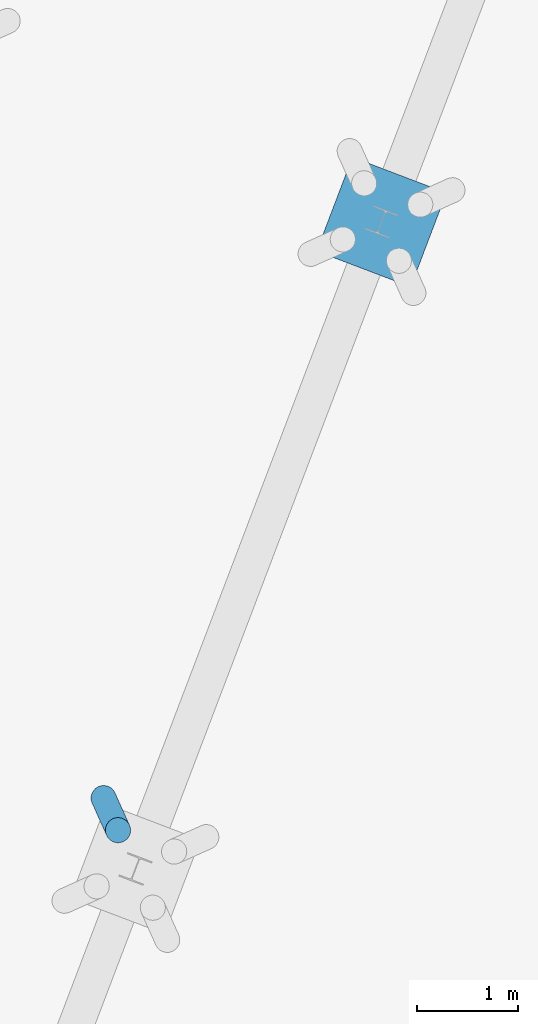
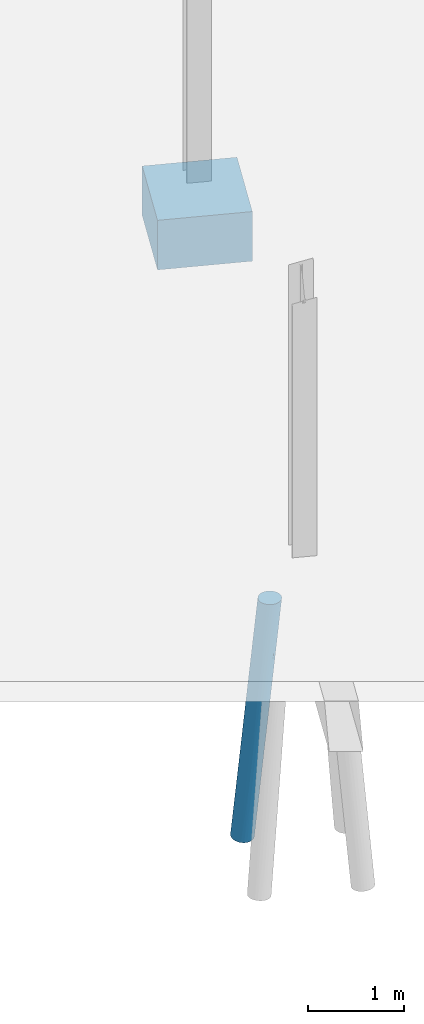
# One storey, part 24 of 46: 1 footing, 1 pile.
"""IFC2X3 building model written with IfcOpenShell, lengths in millimetres."""

from ifc_helpers import new_model, entity, si_unit, converted_unit, derived_unit, direction, frame, origin, origin_2d_with_axis, place, context, subcontext, project, spatial, rectangle, extrude, faceted_brep, source, transform, mapped, material, type_object, type_shapes, element, save


model = new_model("IFC2X3")

# Units and contexts
model_context = context("Model", 3, precision=0.01, world=origin(), true_north=direction((6.123233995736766e-17, 1.0)))
body_context = subcontext(model_context, "Body", "Model", "MODEL_VIEW")
ifc_project = project(units=[si_unit("LENGTHUNIT", "METRE", prefix="MILLI"), converted_unit("PLANEANGLEUNIT", "DEGREE", entity("IfcPlaneAngleMeasure", 0.017453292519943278), si_unit("PLANEANGLEUNIT", "RADIAN"), dimensions=[0, 0, 0, 0, 0, 0, 0]), si_unit("AREAUNIT", "SQUARE_METRE"), derived_unit("THERMALTRANSMITTANCEUNIT", [(si_unit("MASSUNIT", "GRAM", prefix="KILO"), 1), (si_unit("THERMODYNAMICTEMPERATUREUNIT", "KELVIN"), -1), (si_unit("TIMEUNIT", "SECOND"), -3)])], contexts=[model_context])

# Site, building, storey
site_placement = place(None, frame((-72937.88054949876, 11621.45624098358, 0.0), z_axis=(0.0, 0.0, 1.0), x_axis=(0.9346418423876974, -0.35559053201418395, 0.0)))
site = spatial("IfcSite", under=ifc_project, at=site_placement, Name="Default", CompositionType="ELEMENT")
building_placement = place(site_placement, origin())
building = spatial("IfcBuilding", under=site, at=building_placement, CompositionType="ELEMENT")
storey_placement = place(building_placement, origin())
storey = spatial("IfcBuildingStorey", under=building, at=storey_placement, Name="00 begane grond", CompositionType="ELEMENT", Elevation=0.0)

# Footing
ifc_material_1 = material(Name="beton_gewapend_ihw")
type_product_1 = type_object("IfcTypeProduct", Name="poer 1000x1000x800mm", material=ifc_material_1)
shared_shape_1 = source(origin(), body_context, "Body", "SweptSolid", [
    extrude(rectangle(XDim=999.999999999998, YDim=999.999999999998, at=origin_2d_with_axis()), frame((62300.0, 28760.0, -800.0), z_axis=(0.0, 0.0, 1.0), x_axis=(-1.0, 0.0, 0.0)), (0.0, 0.0, 1.0), 630.0000000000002),
])
type_shapes(type_product_1, [shared_shape_1])
footing_placement = place(storey_placement, frame((0.0, 0.0, -60.0)))
element("IfcFooting", 1, at=footing_placement, inside=storey, type_object=type_product_1, material=ifc_material_1, Name="16.13_Poer rechthoek", ObjectType="betonpoer rechthoekig", PredefinedType="PILE_CAP", context=body_context, shape_type="MappedRepresentation", body=[
    mapped(shared_shape_1, transform((0.0, 0.0, 0.0), scale=1.0)),
])

# Pile
ifc_material_2 = material(Name="beton_gewapend_prefab-element_c45/55")
type_product_2 = type_object("IfcTypeProduct", Name="Type 01", material=ifc_material_2)
shared_shape_2 = source(origin(), body_context, "Body", "Brep", [
    faceted_brep([(-21.492869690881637, -34.07967924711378, -2142.478153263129), (41.770052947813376, 0.0, -1615.9926657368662), (50.02983679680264, -41.219149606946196, -1478.3429510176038), (-120.39371842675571, -27.815116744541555, -840.0), (-209.76851175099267, 0.0, -1615.9934634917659), (-196.5141812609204, -41.35907440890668, -1560.4595682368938), (-88.87736384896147, -91.39060439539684, -2432.143714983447), (-29.01608810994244, -89.9027707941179, -1907.5825387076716), (-105.46135978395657, -105.60554685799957, -2414.744852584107), (115.53639022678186, -54.235467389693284, -840.0), (100.55257203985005, -77.93622523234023, -840.0), (44.04069234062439, -66.4881713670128, -1422.150587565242), (-241.29781855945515, -62.499999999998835, -4011.9545633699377), (-228.8866429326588, -32.35238063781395, -4013.333582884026), (-181.63351961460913, -47.83542906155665, -3540.4622999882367), (127.99146025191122, 0.0, -840.0), (124.838162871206, -27.815116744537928, -840.0), (56.79144948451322, -112.62110848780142, -840.0), (-1.0422673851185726, -115.29700921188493, -1306.634534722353), (80.6380595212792, -97.7289353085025, -840.0), (-148.00042706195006, -121.55050259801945, -1927.9224619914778), (-119.59016639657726, -124.7753227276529, -1868.475336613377), (-82.66188090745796, -124.23733970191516, -1479.1096584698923), (2.222222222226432, -125.0, -840.0), (-25.764066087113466, -121.86598902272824, -840.0), (35.238837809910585, -88.30507823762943, -1343.9943162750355), (-38.428481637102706, -123.46402257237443, -1382.7576650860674), (30.208510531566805, -121.86598902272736, -840.0), (-105.46067851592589, -124.17311504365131, -1939.1271630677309), (-121.64165871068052, -118.88184081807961, -2304.5646505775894), (-59.29822656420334, -117.91120533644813, -1769.4495348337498), (-224.65342205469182, 0.0, -4013.803940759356), (-181.5427184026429, 0.0, -3625.8076078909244), (-187.86059930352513, -76.09517863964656, -3448.7603995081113), (-111.16783038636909, -79.40373738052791, -2734.720867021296), (-186.42266103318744, -99.1691675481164, -3226.87509877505), (-381.04339378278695, -120.74072828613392, -3996.4272772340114), (-348.8888888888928, -125.0, -4000.0), (-294.25946310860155, -123.9306076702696, -3360.589550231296), (-119.53291308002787, -47.835429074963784, -2981.55684112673), (-105.13946974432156, -22.11026756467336, -2920.330251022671), (-71.50265177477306, -37.61355729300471, -2582.985799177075), (-160.26870491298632, -23.53094104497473, -3414.1045295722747), (-286.7711554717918, -108.25317547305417, -4006.901970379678), (-238.88036705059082, -115.48494156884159, -3443.09153660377), (-261.04114782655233, -88.38834764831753, -4009.7608601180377), (-316.7343839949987, -120.74072828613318, -4003.5727227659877), (-84.00174733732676, -60.02171841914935, -2608.908596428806), (-61.65923548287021, -74.64816535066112, -2322.8523974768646), (-173.2739820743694, -115.31995815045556, -2856.223431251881), (-151.97718420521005, -123.99260475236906, -2371.2114813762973), (-123.54701580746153, 0.0, -840.0), (-250.82857575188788, -22.617884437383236, -2004.2180489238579), (-295.9900076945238, 0.0, -2391.986926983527), (-52.347005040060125, -112.6211084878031, -840.0), (-76.19361507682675, -97.72893530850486, -840.0), (-107.44397040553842, -105.89787173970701, -1225.6035634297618), (-281.4812245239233, -123.93060767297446, -3541.076638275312), (-109.06614769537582, -117.5733672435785, -1457.2474766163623), (-111.0919457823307, -54.235467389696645, -840.0), (-15.85514051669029, -105.72630914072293, -1606.5585830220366), (-146.68659472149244, -88.47759853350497, -1380.5978408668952), (-158.7756678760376, -105.96661342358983, -1688.5825591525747), (-348.5966640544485, -22.310072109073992, -2883.621631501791), (-384.5571817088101, 0.0, -3189.0914931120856), (-404.9818286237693, -23.95962394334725, -3393.9013620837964), (-416.2874807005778, -47.83542904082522, -3560.826702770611), (-468.89113484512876, -32.35238063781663, -3986.6664171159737), (-456.47995921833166, -62.500000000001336, -3988.0454366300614), (-337.6622645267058, -115.48494156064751, -3465.7921474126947), (-411.00662230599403, -108.25317547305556, -3993.0980296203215), (-255.6918544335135, -84.13968982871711, -2324.129304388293), (-241.96823570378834, -100.09571921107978, -2359.7174741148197), (-204.57839676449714, -89.69967503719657, -1912.8684599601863), (-96.10812759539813, -77.93622523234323, -840.0), (-436.73662995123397, -88.38834764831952, -3990.239139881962), (-377.92930595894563, -99.16916753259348, -3572.292603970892), (-206.96183482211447, -60.377923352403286, -1731.5361763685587), (-358.429549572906, -47.83542903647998, -3040.1053226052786), (-296.17437932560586, -43.53585544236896, -2464.518236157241), (-379.61635653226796, -76.09517861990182, -3378.5322028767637), (-430.0136077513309, 0.0, -3598.199327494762), (-306.35511538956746, -77.61365432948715, -2729.9013330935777), (-213.4617402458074, -118.14633713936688, -2411.4959163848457), (-159.2186646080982, -65.41382269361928, -1328.4086999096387), (-67.97340634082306, -109.92592992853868, -2010.6352011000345), (-179.43548008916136, -124.76102802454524, -2404.9604566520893), (-13.219750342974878, -66.34050229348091, -1938.3332116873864), (-236.17409644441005, -124.51562049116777, -2886.015168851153), (-268.30597333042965, -110.23172722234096, -2741.026078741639), (-270.10864031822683, -119.49229851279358, -2958.6820679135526), (-320.7170568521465, -99.16916752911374, -3057.382361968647), (-473.12435572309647, 0.0, -3986.1960592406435), (-138.91569201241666, -99.37675608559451, -2796.855638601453), (-220.46267944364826, -123.93060767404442, -2991.9097324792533), (-44.45135435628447, 0.0, -2391.9853314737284), (-247.15908292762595, -66.69543969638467, -2127.0964328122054), (-134.55238820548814, 0.0, -3202.894636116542), (-89.50217198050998, 0.0, -2797.4426900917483), (-303.09738986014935, -21.900839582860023, -2473.4623287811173), (-340.273594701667, 0.0, -2790.539210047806), (-246.59414544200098, -45.75852255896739, -2025.9931784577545), (124.83816287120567, 27.815116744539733, -840.0), (115.53639022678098, 54.23546738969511, -840.0), (100.55257203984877, 77.93622523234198, -840.0), (80.63805952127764, 97.72893530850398, -840.0), (56.7914494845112, 112.62110848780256, -840.0), (30.20851053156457, 121.86598902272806, -840.0), (2.222222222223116, 125.0, -840.0), (-25.764066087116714, 121.86598902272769, -840.0), (-52.3470050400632, 112.62110848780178, -840.0), (-76.19361507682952, 97.72893530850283, -840.0), (-96.1081275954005, 77.93622523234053, -840.0), (-111.09194578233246, 54.23546738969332, -840.0), (-120.39371842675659, 27.815116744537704, -840.0), (-213.46174017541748, 118.14633716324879, -2411.4959163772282), (-268.3059732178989, 110.23172722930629, -2741.0260778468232), (-241.96823566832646, 100.09571920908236, -2359.717473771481), (-187.14229973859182, 67.59575846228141, -1592.137482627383), (-196.5141812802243, 41.359074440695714, -1560.4595685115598), (-82.66188086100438, 124.23733970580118, -1479.1096583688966), (-29.016087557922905, 89.90277069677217, -1907.5825346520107), (35.23883807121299, 88.30507821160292, -1343.9943141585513), (-13.219750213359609, 66.3405022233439, -1938.3332109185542), (-109.06614766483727, 117.57336725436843, -1457.2474766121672), (-381.04339378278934, 120.74072828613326, -3996.4272772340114), (-337.6622645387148, 115.48494156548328, -3465.7921476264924), (-294.2594631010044, 123.93060767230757, -3360.5895503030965), (-377.9293059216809, 99.16916753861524, -3572.292603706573), (-379.61635651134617, 76.09517863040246, -3378.53220276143), (-320.717056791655, 99.16916754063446, -3057.382361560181), (-286.77115547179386, 108.25317547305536, -4006.901970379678), (-238.88036707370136, 115.48494156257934, -3443.0915369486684), (-186.42266103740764, 99.16916753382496, -3226.875098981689), (-241.29781855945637, 62.50000000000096, -4011.9545633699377), (-181.63351956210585, 47.835429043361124, -3540.4622995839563), (-228.88664293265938, 32.352380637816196, -4013.333582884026), (-107.44397039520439, 105.89787175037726, -1225.6035634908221), (-38.428481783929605, 123.46402262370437, -1382.7576634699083), (-468.89113484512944, 32.35238063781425, -3986.6664171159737), (-173.2739821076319, 115.31995832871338, -2856.223427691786), (-138.91569233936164, 99.37675620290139, -2796.855640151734), (-160.26870486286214, 23.530941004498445, -3414.104529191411), (-261.041147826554, 88.38834764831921, -4009.7608601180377), (-187.86059935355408, 76.09517862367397, -3448.760400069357), (-306.35511542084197, 77.61365434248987, -2729.9013334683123), (-348.8888888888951, 125.0, -4000.0), (-456.47995921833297, 62.49999999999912, -3988.0454366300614), (-416.2874806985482, 47.83542904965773, -3560.826702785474), (-411.0066223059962, 108.25317547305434, -3993.0980296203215), (-436.7366299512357, 88.38834764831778, -3990.239139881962), (-84.00174724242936, 60.02171839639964, -2608.9085956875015), (-21.492869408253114, 34.07967918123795, -2142.4781508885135), (-71.50265159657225, 37.613557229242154, -2582.9857977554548), (-220.46267940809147, 123.93060767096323, -2991.909732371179), (-281.48122449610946, 123.9306076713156, -3541.07663813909), (-148.0004270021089, 121.5505026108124, -1927.922461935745), (-158.7756678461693, 105.9666134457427, -1688.5825592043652), (-15.85514048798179, 105.72630911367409, -1606.5585831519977), (-59.298225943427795, 117.91120535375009, -1769.449528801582), (-1.0422669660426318, 115.29700910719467, -1306.634533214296), (-270.1086403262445, 119.49229851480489, -2958.682068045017), (50.02983688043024, 41.21914955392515, -1478.342950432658), (-146.6865947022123, 88.47759855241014, -1380.5978408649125), (-358.42954957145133, 47.83542905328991, -3040.1053226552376), (-348.59666404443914, 22.310072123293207, -2883.6216314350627), (-296.1743793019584, 43.535855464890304, -2464.5182360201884), (57.21126448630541, 65.80573689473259, -1307.4694469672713), (-121.64165783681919, 118.88184074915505, -2304.564644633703), (-67.97340649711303, 109.92593000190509, -2010.6352012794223), (-105.13946990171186, 22.110267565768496, -2920.330252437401), (-179.4354799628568, 124.7610280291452, -2404.960456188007), (-316.73438399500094, 120.7407282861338, -4003.5727227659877), (-119.53291301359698, 47.8354290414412, -2981.5568406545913), (-250.82857577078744, 22.617884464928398, -2004.2180491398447), (-404.98182862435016, 23.959623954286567, -3393.9013621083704), (-61.65923550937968, 74.64816548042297, -2322.852396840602), (-243.17628094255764, 45.971171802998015, -1995.991919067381), (-105.46135971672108, 105.60554680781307, -2414.7448526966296), (-111.16783063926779, 79.40373735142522, -2734.7208695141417), (-119.59016630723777, 124.7753227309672, -1868.4753363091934), (-236.17409637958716, 124.515620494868, -2886.0151686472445), (-204.5783966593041, 89.69967507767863, -1912.8684593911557), (-247.1590829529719, 66.69543974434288, -2127.0964333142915), (-88.87736442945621, 91.39060438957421, -2432.1437202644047), (-255.69185439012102, 84.13968979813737, -2324.1293037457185), (-168.1781585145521, 123.85607816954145, -2526.387901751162), (-105.46067843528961, 124.17311503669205, -1939.1271628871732), (-303.0973898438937, 21.90083960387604, -2473.4623286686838)], [[[0, 1, 2]], [[3, 4, 5]], [[6, 7, 8]], [[9, 10, 11]], [[12, 13, 14]], [[1, 15, 16]], [[17, 18, 19]], [[20, 21, 22]], [[22, 23, 24]], [[10, 19, 25]], [[26, 18, 27]], [[23, 22, 26]], [[28, 29, 30]], [[13, 31, 32]], [[33, 34, 35]], [[36, 37, 38]], [[39, 40, 41]], [[14, 42, 39]], [[43, 35, 44]], [[33, 35, 45]], [[43, 44, 46]], [[47, 48, 34]], [[49, 29, 50]], [[3, 51, 4]], [[30, 26, 28]], [[52, 4, 53]], [[54, 55, 56]], [[57, 38, 37]], [[58, 24, 54]], [[57, 37, 46]], [[3, 5, 59]], [[2, 16, 9]], [[4, 52, 5]], [[25, 60, 7]], [[45, 35, 43]], [[61, 62, 56]], [[63, 64, 65]], [[66, 67, 68]], [[69, 36, 38]], [[36, 69, 70]], [[71, 72, 73]], [[61, 55, 74]], [[75, 70, 76]], [[61, 77, 73]], [[63, 78, 79]], [[75, 76, 80]], [[64, 81, 65]], [[78, 80, 82]], [[75, 80, 68]], [[72, 83, 62]], [[5, 84, 59]], [[29, 8, 85]], [[11, 10, 25]], [[28, 21, 86]], [[45, 12, 33]], [[49, 44, 35]], [[58, 54, 56]], [[22, 58, 20]], [[0, 2, 87]], [[1, 16, 2]], [[88, 86, 83]], [[39, 42, 40]], [[89, 69, 90]], [[74, 59, 84]], [[62, 73, 72]], [[82, 80, 91]], [[66, 80, 78]], [[14, 33, 12]], [[67, 81, 92]], [[34, 33, 39]], [[39, 41, 47]], [[34, 6, 93]], [[35, 93, 49]], [[57, 44, 94]], [[90, 69, 38]], [[76, 69, 91]], [[34, 39, 47]], [[1, 0, 95]], [[72, 82, 91]], [[82, 96, 79]], [[72, 91, 89]], [[62, 61, 73]], [[32, 42, 13]], [[33, 14, 39]], [[44, 57, 46]], [[38, 57, 94]], [[42, 32, 97]], [[42, 97, 40]], [[13, 42, 14]], [[40, 97, 98, 95]], [[41, 95, 0]], [[61, 56, 55]], [[58, 56, 62]], [[20, 62, 83]], [[24, 58, 22]], [[62, 20, 58]], [[20, 83, 86]], [[83, 90, 88]], [[28, 50, 29]], [[90, 38, 88]], [[89, 90, 83]], [[95, 41, 40]], [[47, 0, 87]], [[0, 47, 41]], [[48, 47, 87]], [[7, 48, 87]], [[6, 34, 48]], [[87, 2, 11]], [[7, 60, 85]], [[60, 25, 19]], [[11, 7, 87]], [[7, 6, 48]], [[93, 6, 8]], [[93, 8, 49]], [[34, 93, 35]], [[29, 49, 8]], [[94, 44, 49]], [[30, 85, 60]], [[28, 86, 50]], [[18, 30, 60]], [[18, 26, 30]], [[23, 26, 27]], [[21, 26, 22]], [[19, 18, 60]], [[18, 17, 27]], [[77, 61, 84]], [[71, 96, 82]], [[72, 89, 83]], [[69, 89, 91]], [[38, 94, 88]], [[50, 88, 94]], [[80, 66, 68]], [[65, 67, 66]], [[78, 63, 65]], [[67, 65, 81]], [[78, 65, 66]], [[78, 82, 79]], [[99, 100, 63]], [[79, 101, 52]], [[99, 63, 79]], [[69, 76, 70]], [[80, 76, 91]], [[96, 71, 73]], [[82, 72, 71]], [[29, 85, 30]], [[7, 85, 8]], [[99, 52, 53]], [[101, 79, 96]], [[77, 84, 5]], [[74, 84, 61]], [[86, 21, 20]], [[26, 21, 28]], [[9, 11, 2]], [[7, 11, 25]], [[88, 50, 86]], [[49, 50, 94]], [[52, 99, 79]], [[100, 64, 63]], [[100, 99, 53]], [[77, 101, 96]], [[5, 52, 101]], [[101, 77, 5]], [[73, 77, 96]], [[24, 23, 27, 17, 19, 10, 9, 16, 15, 102, 103, 104, 105, 106, 107, 108, 109, 110, 111, 112, 113, 114, 51, 3, 59, 74, 55, 54]], [[51, 114, 4]], [[115, 116, 117]], [[118, 113, 112]], [[119, 114, 113]], [[120, 109, 108]], [[121, 122, 123]], [[120, 124, 109]], [[125, 126, 127]], [[128, 129, 130]], [[131, 132, 133]], [[134, 135, 136]], [[137, 111, 110]], [[138, 108, 107]], [[139, 92, 81]], [[140, 141, 133]], [[142, 97, 32]], [[143, 133, 144]], [[130, 129, 145]], [[146, 125, 127]], [[147, 139, 148]], [[149, 150, 128]], [[151, 152, 153]], [[154, 155, 127]], [[124, 156, 157]], [[158, 159, 160]], [[4, 114, 119]], [[160, 107, 106]], [[161, 127, 126]], [[103, 102, 162]], [[158, 160, 105]], [[111, 137, 163]], [[164, 165, 166]], [[105, 104, 122]], [[102, 15, 1]], [[167, 103, 162]], [[167, 123, 122]], [[168, 159, 169]], [[170, 97, 142]], [[115, 156, 171]], [[155, 172, 146]], [[163, 118, 112]], [[169, 159, 158]], [[111, 163, 112]], [[143, 131, 133]], [[130, 145, 117]], [[134, 143, 144]], [[123, 162, 152]], [[129, 150, 147]], [[173, 151, 153]], [[119, 174, 4]], [[148, 175, 164]], [[121, 123, 176]], [[166, 174, 177]], [[140, 168, 178]], [[131, 172, 132]], [[144, 179, 173]], [[171, 156, 180]], [[124, 157, 137]], [[102, 1, 162]], [[152, 1, 95]], [[125, 149, 126]], [[136, 32, 31]], [[115, 181, 161]], [[182, 157, 117]], [[118, 183, 177]], [[148, 129, 147]], [[164, 166, 145]], [[155, 132, 172]], [[164, 175, 165]], [[141, 140, 178]], [[179, 144, 133]], [[135, 144, 173]], [[178, 184, 141]], [[151, 176, 123]], [[128, 126, 149]], [[161, 116, 115]], [[1, 152, 162]], [[95, 170, 153]], [[164, 145, 129]], [[163, 157, 182]], [[185, 183, 182]], [[115, 117, 157]], [[144, 135, 134]], [[142, 136, 135]], [[127, 155, 146]], [[132, 155, 154]], [[173, 170, 142]], [[136, 142, 32]], [[173, 142, 135]], [[153, 170, 173]], [[170, 95, 98, 97]], [[110, 109, 124]], [[163, 137, 157]], [[124, 137, 110]], [[156, 124, 120]], [[180, 156, 120]], [[157, 156, 115]], [[186, 187, 168]], [[161, 181, 127]], [[116, 126, 130]], [[181, 115, 171]], [[173, 179, 151]], [[95, 153, 152]], [[176, 151, 179]], [[152, 151, 123]], [[179, 184, 176]], [[178, 169, 121]], [[121, 176, 184]], [[158, 105, 122]], [[103, 167, 104]], [[158, 122, 121]], [[141, 179, 133]], [[121, 184, 178]], [[179, 141, 184]], [[140, 133, 132]], [[132, 154, 140]], [[181, 186, 154]], [[186, 140, 154]], [[168, 187, 159]], [[138, 159, 187]], [[107, 160, 138]], [[180, 138, 187]], [[108, 138, 120]], [[138, 160, 159]], [[105, 160, 106]], [[185, 182, 117]], [[118, 182, 183]], [[126, 116, 161]], [[117, 116, 130]], [[186, 181, 171]], [[154, 127, 181]], [[81, 175, 139]], [[129, 148, 164]], [[175, 81, 64]], [[175, 64, 165]], [[139, 175, 148]], [[165, 64, 100]], [[166, 183, 145]], [[165, 188, 166]], [[174, 53, 4]], [[129, 128, 150]], [[126, 128, 130]], [[117, 145, 185]], [[183, 185, 145]], [[121, 169, 158]], [[168, 169, 178]], [[177, 174, 119]], [[188, 174, 166]], [[113, 118, 119]], [[182, 118, 163]], [[138, 180, 120]], [[171, 180, 187]], [[123, 167, 162]], [[104, 167, 122]], [[187, 186, 171]], [[140, 186, 168]], [[100, 188, 165]], [[188, 100, 53]], [[174, 188, 53]], [[118, 177, 119]], [[166, 177, 183]], [[146, 172, 131, 143, 134, 136, 31, 13, 12, 45, 43, 46, 37, 36, 70, 75, 68, 67, 92, 139, 147, 150, 149, 125]]]),
])
type_shapes(type_product_2, [shared_shape_2])
pile_placement = place(storey_placement, frame((62000.0, 22180.0, 0.0), z_axis=(0.0, 0.0, 1.0), x_axis=(0.7071067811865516, -0.7071067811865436, 0.0)))
element("IfcPile", 2, at=pile_placement, inside=storey, type_object=type_product_2, material=ifc_material_2, Name="17.21_Prefab funderingspaal rond", ObjectType="prefab paal rond", PredefinedType="NOTDEFINED", context=body_context, shape_type="MappedRepresentation", body=[
    mapped(shared_shape_2, transform((0.0, 0.0, 0.0), scale=1.0)),
])

save(model, "model.ifc")
